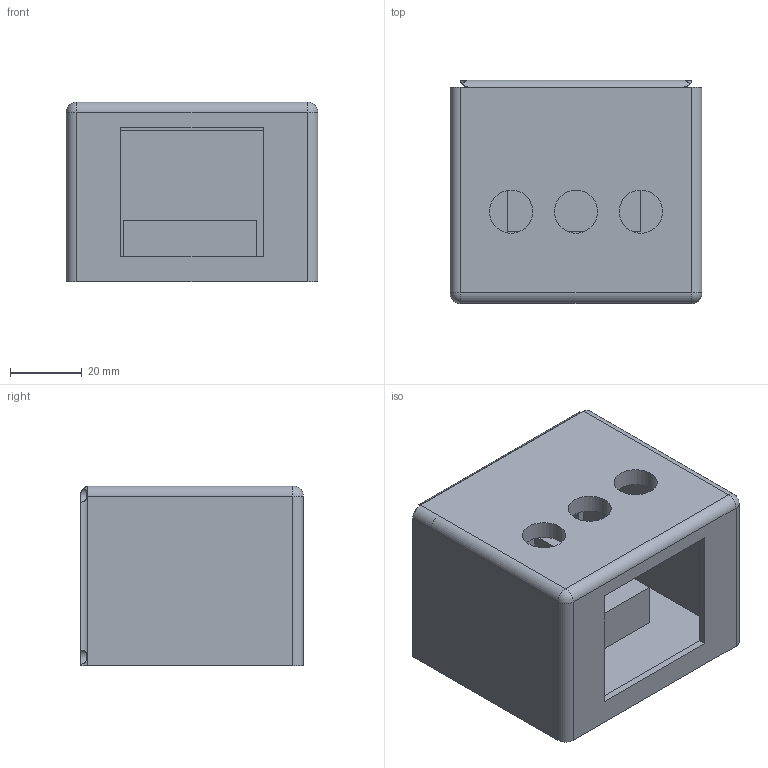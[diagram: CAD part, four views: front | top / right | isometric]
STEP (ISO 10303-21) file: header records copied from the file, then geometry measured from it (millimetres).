
FILE_DESCRIPTION(/* description */ (''),/* implementation_level */ '2;1');
FILE_NAME(/* name */ 'SPOTDISP 3D printable.step',/* time_stamp */ '2026-04-14T18:31:32+02:00',/* author */ (''),/* organization */ (''),/* preprocessor_version */ 'ST-DEVELOPER v20.1',/* originating_system */ 'Autodesk Translation Framework v14.21.0.0',/* authorisation */ '');
FILE_SCHEMA (('AUTOMOTIVE_DESIGN { 1 0 10303 214 3 1 1 }'));
Length unit declared in the file: millimetre
Products named in the file (1): Komponent programu Fusion
Bounding box: 70 x 62 x 50 mm (x, y, z)
Volume: 79078.8 mm3; surface area: 40700.7 mm2
Topology: 2 solids, 2 shells, 92 faces, 231 edges, 152 vertices
Faces by surface type: plane 49, bspline 21, cylinder 20, sphere 2
Full cylindrical faces by diameter (mm): 4 x4, 12 x3
Entity records: 2939 total; most frequent: CARTESIAN_POINT 861, ORIENTED_EDGE 462, DIRECTION 359, EDGE_CURVE 231, VERTEX_POINT 152, LINE 147, VECTOR 147, EDGE_LOOP 111
